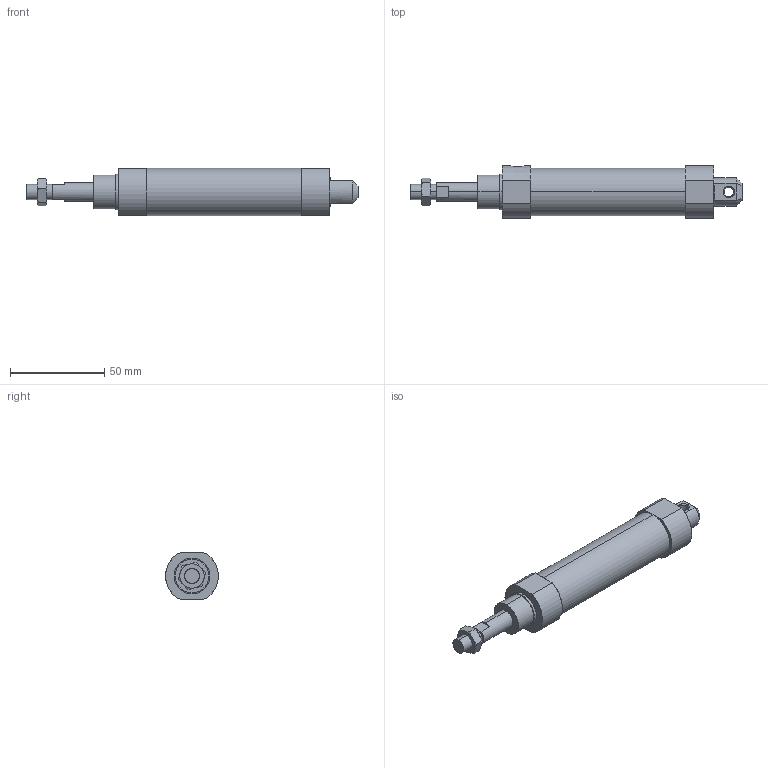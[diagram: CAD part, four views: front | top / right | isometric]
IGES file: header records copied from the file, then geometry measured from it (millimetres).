
Start section: SolidWorks IGES file using analytic representation for surfaces
Global section: file name: C:\Users\Toshiba\Desktop\J#0-20-15-C.IGS; native system: SolidWorks 2014; preprocessor: SolidWorks 2014; author: Toshiba; date: 160308.141444; units: millimetre
Bounding box: 176 x 28 x 25 mm (x, y, z)
Surface area: 13843.4 mm2 (no closed solid volume)
Topology: 0 solids, 0 shells, 75 faces, 1178 edges, 1178 vertices
Faces by surface type: bspline 47, revolution 28
